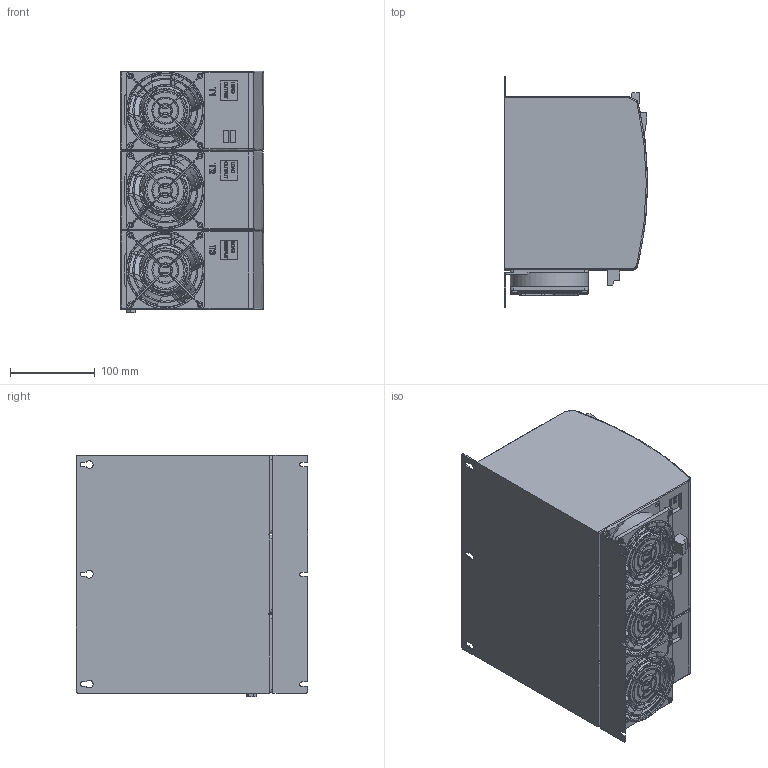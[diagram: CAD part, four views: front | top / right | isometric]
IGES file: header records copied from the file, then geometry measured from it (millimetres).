
Global section: file name: SR17 90A-210A 3PH; native system: AutoCAD 2015 - Italiano (Italian); preprocessor: Autodesk Translation Framework DWG producer (atf_dwg_producer); organization: unknown; date: 20180117.122343; units: millimetre
Bounding box: 169.32 x 273 x 285 mm (x, y, z)
Volume: 9741435.8 mm3; surface area: 558687.6 mm2
Topology: 25 solids, 25 shells, 3925 faces, 11026 edges, 7320 vertices
Faces by surface type: bspline 3925
